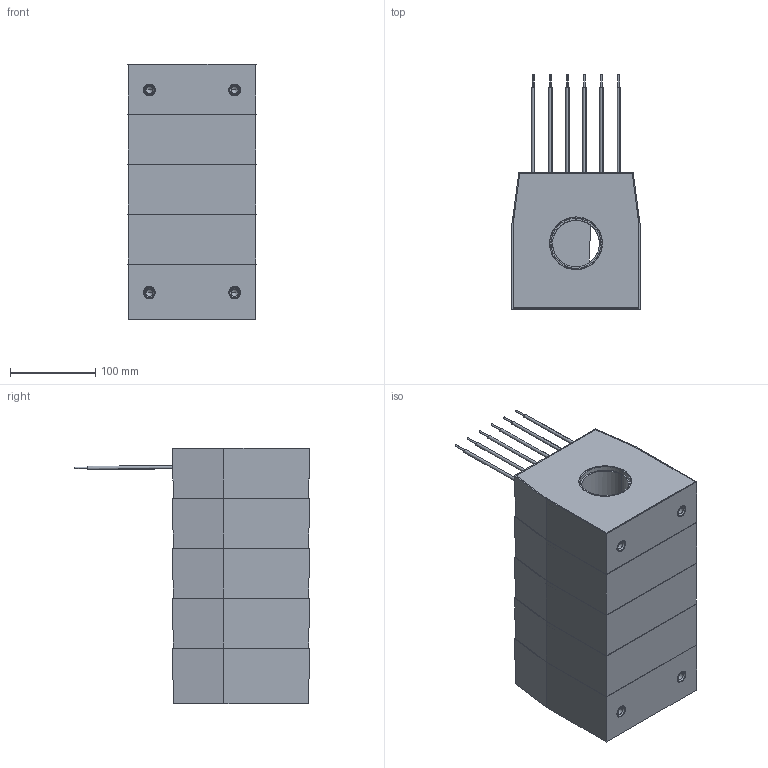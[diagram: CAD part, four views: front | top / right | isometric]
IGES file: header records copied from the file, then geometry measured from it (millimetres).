
Start section: IGES file generated from Kompas f.0 for Windows drawing by the IGES translator from Ascon Ltd., translator version IGESOUT-5.1.
Global section: file name: C:\Ðàáîòà\Èçâåùåíèÿ 5\ÒØÏ-ÍÒÇ-0.66-61...,71...,81... (ñáîðíûé)\Âåðñèÿ îò 21.05.24\3D ìîäåëü\ÒØÏ-ÍÒÇ-0,66-75Ñ\ÒØÏ-ÍÒÇ-0,66-75Ñ (55 ìì, 5-é ãàáàðèò).igs; native system: Kompas( 32 bit ) for Windows; preprocessor: 1.0; author: 123; organization: Microsoft; date: -17750727:093513; units: millimetre
Bounding box: 150 x 274.82 x 299 mm (x, y, z)
Volume: 937041.3 mm3; surface area: 633409.9 mm2
Topology: 21 solids, 21 shells, 463 faces, 1099 edges, 705 vertices
Faces by surface type: bspline 235, revolution 228
